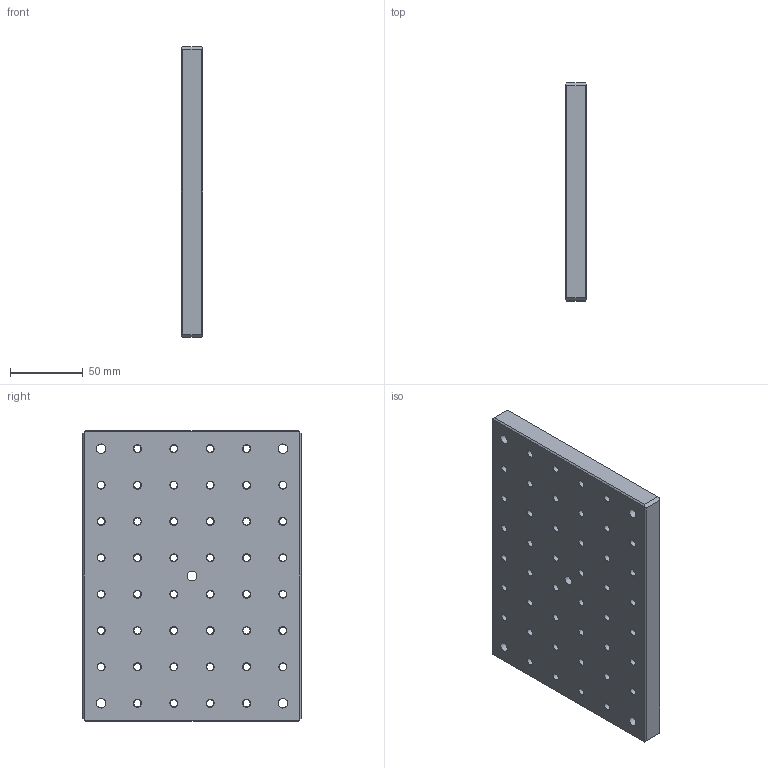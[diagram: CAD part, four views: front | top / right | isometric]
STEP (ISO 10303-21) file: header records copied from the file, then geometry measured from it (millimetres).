
FILE_DESCRIPTION(/* description */ (''),/* implementation_level */ '2;1');
FILE_NAME(/* name */ 'U:\KONSTRUKTORIAI\DOKUMENTACIJA\1\1B-ALE\Inventor\1B-ALE-15-20-015\step\1B-ALE-15-20-015.stp',/* time_stamp */ '2016-06-17T10:50:59+03:00',/* author */ ('dsgn31'),/* organization */ (''),/* preprocessor_version */ 'ST-DEVELOPER v15.2',/* originating_system */ 'Autodesk Inventor 2014',/* authorisation */ '');
FILE_SCHEMA (('AUTOMOTIVE_DESIGN { 1 0 10303 214 3 1 1 }'));
Length unit declared in the file: millimetre
Products named in the file (1): 1B-ALE-15-20-015.01
Bounding box: 15 x 150 x 200 mm (x, y, z)
Volume: 431634.5 mm3; surface area: 79665.1 mm2
Topology: 1 solids, 1 shells, 165 faces, 422 edges, 264 vertices
Faces by surface type: cone 88, cylinder 54, plane 23
Full cylindrical faces by diameter (mm): 4.917 x44, 6.5 x5, 11 x5
Entity records: 4127 total; most frequent: DIRECTION 764, CARTESIAN_POINT 622, ORIENTED_EDGE 472, EDGE_LOOP 410, AXIS2_PLACEMENT_3D 362, FACE_BOUND 247, EDGE_CURVE 236, VERTEX_POINT 220
